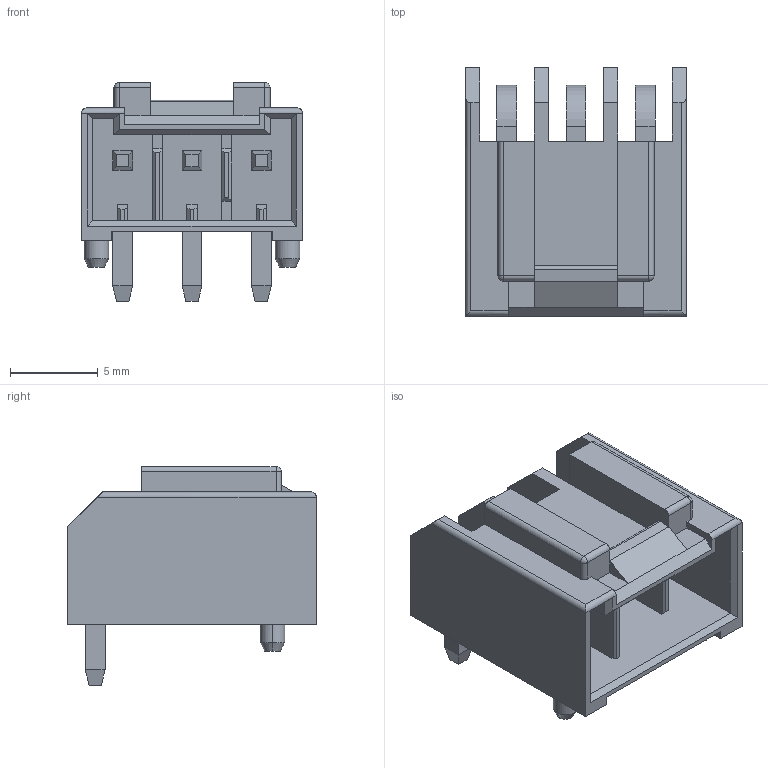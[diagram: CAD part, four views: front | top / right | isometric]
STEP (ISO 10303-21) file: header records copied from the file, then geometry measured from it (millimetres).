
FILE_DESCRIPTION(('Creo Elements/Direct Modeling STEP Export'),'2;1');
FILE_NAME('DF63M-3P-3.96DS.stp','2018-02-05T13:08:37',(''),(''),'Creo Elements/Direct Modeling STEP processor for AP214 (Solid Model)','Creo Elements/Direct Modeling 19.0F 14-Feb-2017 (C) Parametric Technology GmbH','');
FILE_SCHEMA(('AUTOMOTIVE_DESIGN { 1 0 10303 214 1 1 1 1 }'));
Length unit declared in the file: millimetre
Products named in the file (1): DF63-3P-3_96DS.prt
Bounding box: 12.62 x 14.2 x 12.5 mm (x, y, z)
Volume: 646.9 mm3; surface area: 1479.8 mm2
Topology: 1 solids, 1 shells, 208 faces, 538 edges, 338 vertices
Faces by surface type: plane 181, cylinder 21, cone 4, sphere 2
Entity records: 6144 total; most frequent: CARTESIAN_POINT 1089, ORIENTED_EDGE 1072, DIRECTION 976, EDGE_CURVE 536, VECTOR 490, LINE 490, VERTEX_POINT 338, AXIS2_PLACEMENT_3D 243
